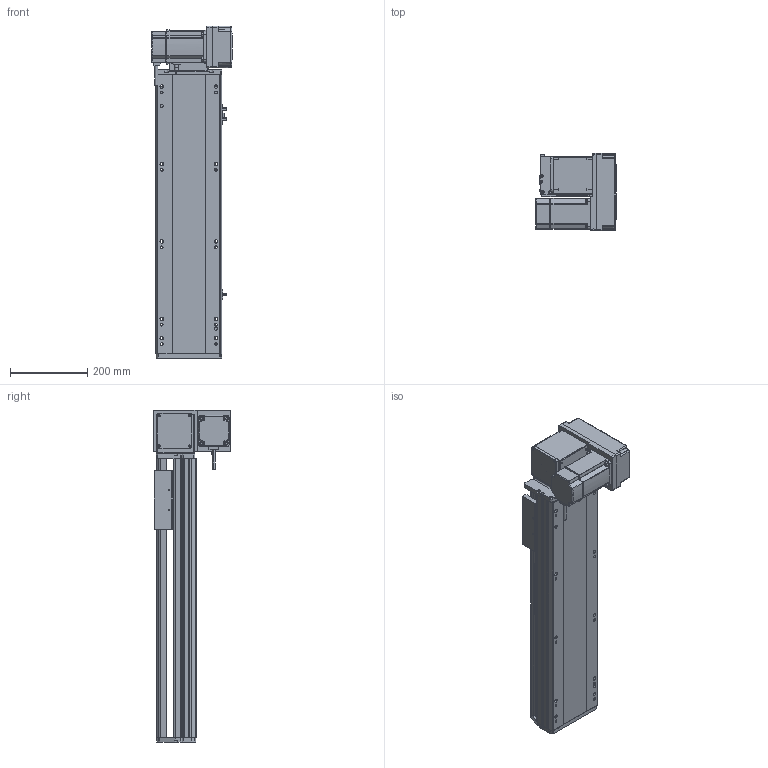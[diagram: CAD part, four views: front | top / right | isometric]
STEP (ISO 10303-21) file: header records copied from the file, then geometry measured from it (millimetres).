
FILE_DESCRIPTION (( 'STEP AP214' ), '1' );
FILE_NAME ('RTB17S-XX-450-RM-M75-C4.STEP', '2025-12-12T02:02:02', ( '' ), ( '' ), 'SwSTEP 2.0', 'SolidWorks 2018', '' );
FILE_SCHEMA (( 'AUTOMOTIVE_DESIGN' ));
Length unit declared in the file: millimetre
Products named in the file (15): RTB22S-GY-005P^RTB17S-RM-々湍釱蚾饜-750W_RTB17S-XX-XX-RM-M75-C4; RTB17S-L-014-T20-P75--々湍釱^RTB17S-RM-々湍釱蚾饜-750W_RTB17S-XX-XX-RM-M75-C4; RTB22S-GY-018P^RTB17S-RM-々湍釱蚾饜-750W_RTB17S-XX-XX-RM-M75-C4; EE672^RTB17S-XX-XX-RM-M75-C4; 750W萇儂^RTB17S-XX-XX-RM-M75-C4; RTB17S-L-004-賑釱^RTB17S-賑釱_RTB17S-XX-XX-RM-M75-C4; RTB17S-RM-々湍釱蚾饜-750W^RTB17S-XX-XX-RM-M75-C4; RTB17S-L-001-耜醱啣^RTB17S-XX-XX-RM-M75-C4; RTB17S-L-007奻裔^RTB17S-XX-XX-RM-M75-C4; RTB17S-XX-450-RM-M75-C4; RTB17S-賑釱^RTB17S-XX-XX-RM-M75-C4; RTB22S-GY-017P^RTB17S-RM-々湍釱蚾饜-750W_RTB17S-XX-XX-RM-M75-C4; RTH13-BL-012覜茼え俋离^RTB17S-賑釱_RTB17S-XX-XX-RM-M75-C4; RTB17-R-011菁釱^RTB17S-XX-XX-RM-M75-C4; RTB22S-GY-008-M75--萇儂啣^RTB17S-RM-々湍釱蚾饜-750W_RTB17S-XX-XX-RM-M75-C4
Assembly tree (17 placements, depth 3):
  RTB17S-XX-450-RM-M75-C4
    RTB17-R-011菁釱^RTB17S-XX-XX-RM-M75-C4
    EE672^RTB17S-XX-XX-RM-M75-C4  x3
    RTB17S-L-001-耜醱啣^RTB17S-XX-XX-RM-M75-C4
    RTB17S-賑釱^RTB17S-XX-XX-RM-M75-C4
      RTB17S-L-004-賑釱^RTB17S-賑釱_RTB17S-XX-XX-RM-M75-C4
      RTH13-BL-012覜茼え俋离^RTB17S-賑釱_RTB17S-XX-XX-RM-M75-C4
    RTB17S-L-007奻裔^RTB17S-XX-XX-RM-M75-C4
    750W萇儂^RTB17S-XX-XX-RM-M75-C4
    RTB17S-RM-々湍釱蚾饜-750W^RTB17S-XX-XX-RM-M75-C4
      RTB17S-L-014-T20-P75--々湍釱^RTB17S-RM-々湍釱蚾饜-750W_RTB17S-XX-XX-RM-M75-C4
      RTB22S-GY-005P^RTB17S-RM-々湍釱蚾饜-750W_RTB17S-XX-XX-RM-M75-C4
      RTB22S-GY-017P^RTB17S-RM-々湍釱蚾饜-750W_RTB17S-XX-XX-RM-M75-C4  x2
      RTB22S-GY-008-M75--萇儂啣^RTB17S-RM-々湍釱蚾饜-750W_RTB17S-XX-XX-RM-M75-C4
      RTB22S-GY-018P^RTB17S-RM-々湍釱蚾饜-750W_RTB17S-XX-XX-RM-M75-C4
Bounding box: 207.4 x 200 x 857.5 mm (x, y, z)
Volume: 8757759.5 mm3; surface area: 1397136.6 mm2
Topology: 17 solids, 17 shells, 2057 faces, 5674 edges, 3662 vertices
Faces by surface type: plane 966, cylinder 675, bspline 294, cone 110, sphere 8, torus 4
Entity records: 56566 total; most frequent: CARTESIAN_POINT 16538, ORIENTED_EDGE 8192, DIRECTION 7682, EDGE_CURVE 4096, AXIS2_PLACEMENT_3D 2682, VERTEX_POINT 2666, VECTOR 2318, LINE 2318
